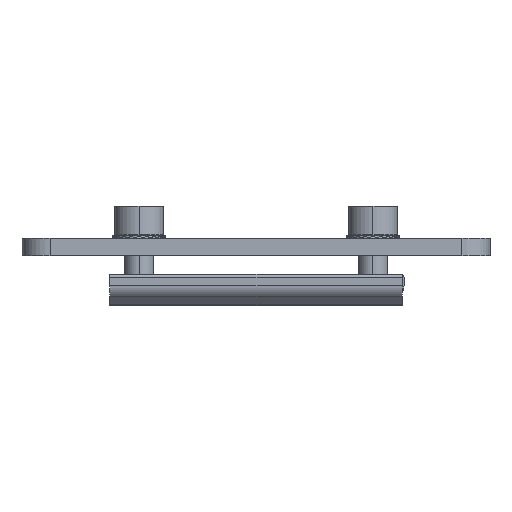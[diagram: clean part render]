
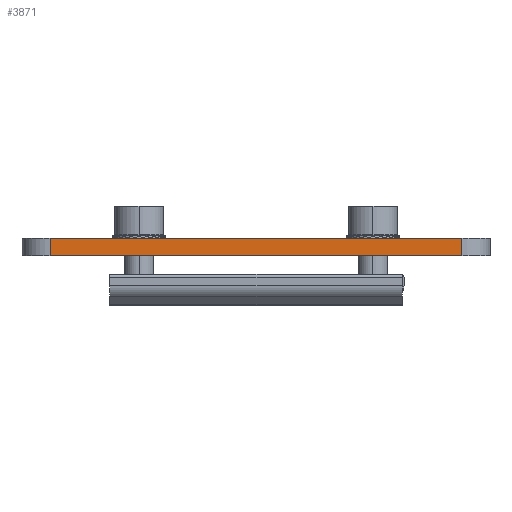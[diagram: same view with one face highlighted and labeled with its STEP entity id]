
A CAD part, left-side view. The second image highlights one B-rep face of the part: STEP entity #3871.
In plain terms, the highlighted planar face has unit normal (-1, 0, 0).
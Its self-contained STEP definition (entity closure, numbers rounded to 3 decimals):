
#74 = LINE ( 'NONE', #1422, #5400 ) ;
#330 = DIRECTION ( 'NONE',  ( 0., 0., 1. ) ) ;
#692 = CARTESIAN_POINT ( 'NONE',  ( -82.673, 52.196, -1.082 ) ) ;
#929 = VERTEX_POINT ( 'NONE', #2804 ) ;
#1065 = VERTEX_POINT ( 'NONE', #8968 ) ;
#1158 = VERTEX_POINT ( 'NONE', #5174 ) ;
#1329 = EDGE_LOOP ( 'NONE', ( #2720, #4985, #5959, #8276 ) ) ;
#1404 = PLANE ( 'NONE',  #2075 ) ;
#1422 = CARTESIAN_POINT ( 'NONE',  ( -82.673, 52.196, 1.918 ) ) ;
#1545 = VECTOR ( 'NONE', #3510, 1000. ) ;
#1769 = LINE ( 'NONE', #692, #1545 ) ;
#1822 = LINE ( 'NONE', #7802, #5486 ) ;
#2075 = AXIS2_PLACEMENT_3D ( 'NONE', #6377, #5949, #330 ) ;
#2720 = ORIENTED_EDGE ( 'NONE', *, *, #7720, .F. ) ;
#2766 = DIRECTION ( 'NONE',  ( 0., 0., 1. ) ) ;
#2804 = CARTESIAN_POINT ( 'NONE',  ( -82.673, -18.204, -1.082 ) ) ;
#3128 = EDGE_CURVE ( 'NONE', #929, #1158, #1822, .T. ) ;
#3510 = DIRECTION ( 'NONE',  ( 0., 0., 1. ) ) ;
#3595 = DIRECTION ( 'NONE',  ( 0., -1., 0. ) ) ;
#3692 = VECTOR ( 'NONE', #3595, 1000. ) ;
#3766 = CARTESIAN_POINT ( 'NONE',  ( -82.673, 52.196, -1.082 ) ) ;
#3840 = EDGE_CURVE ( 'NONE', #5601, #929, #5489, .T. ) ;
#3871 = ADVANCED_FACE ( 'NONE', ( #5273 ), #1404, .T. ) ;
#4010 = DIRECTION ( 'NONE',  ( 0., -1., 0. ) ) ;
#4985 = ORIENTED_EDGE ( 'NONE', *, *, #8771, .F. ) ;
#5174 = CARTESIAN_POINT ( 'NONE',  ( -82.673, -18.204, 1.918 ) ) ;
#5273 = FACE_OUTER_BOUND ( 'NONE', #1329, .T. ) ;
#5400 = VECTOR ( 'NONE', #4010, 1000. ) ;
#5486 = VECTOR ( 'NONE', #2766, 1000. ) ;
#5489 = LINE ( 'NONE', #3766, #3692 ) ;
#5601 = VERTEX_POINT ( 'NONE', #7062 ) ;
#5949 = DIRECTION ( 'NONE',  ( -1., 0., 0. ) ) ;
#5959 = ORIENTED_EDGE ( 'NONE', *, *, #3840, .T. ) ;
#6377 = CARTESIAN_POINT ( 'NONE',  ( -82.673, 52.196, -1.082 ) ) ;
#7062 = CARTESIAN_POINT ( 'NONE',  ( -82.673, 52.196, -1.082 ) ) ;
#7720 = EDGE_CURVE ( 'NONE', #1065, #1158, #74, .T. ) ;
#7802 = CARTESIAN_POINT ( 'NONE',  ( -82.673, -18.204, -1.082 ) ) ;
#8276 = ORIENTED_EDGE ( 'NONE', *, *, #3128, .T. ) ;
#8771 = EDGE_CURVE ( 'NONE', #5601, #1065, #1769, .T. ) ;
#8968 = CARTESIAN_POINT ( 'NONE',  ( -82.673, 52.196, 1.918 ) ) ;
